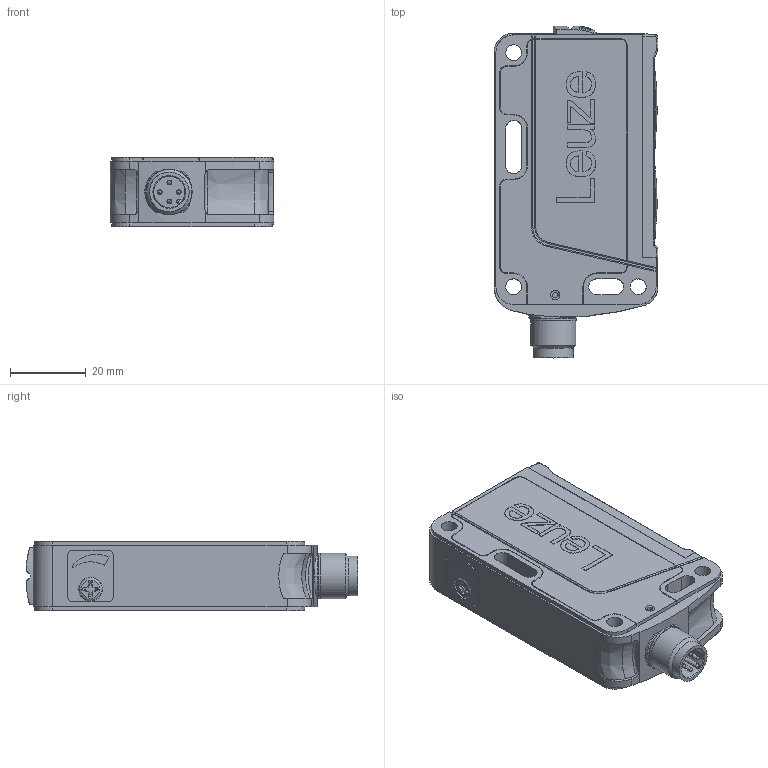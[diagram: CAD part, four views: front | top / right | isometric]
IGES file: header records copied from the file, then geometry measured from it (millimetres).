
Global section: file name: E:\temp\hrt46b_stecker_m12.igs; preprocessor: I-DEAS 3D IGES Translator 11; date: 20100728.101037; units: millimetre
Bounding box: 43.4 x 87.92 x 18.5 mm (x, y, z)
Volume: 54656 mm3; surface area: 13706.4 mm2
Topology: 1 solids, 1 shells, 433 faces, 1185 edges, 780 vertices
Faces by surface type: bspline 433
